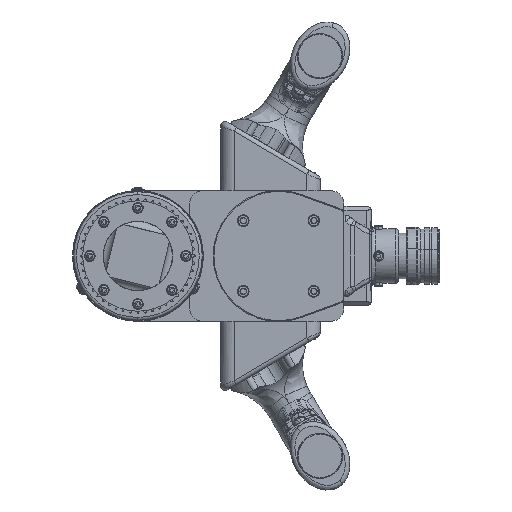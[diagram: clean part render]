
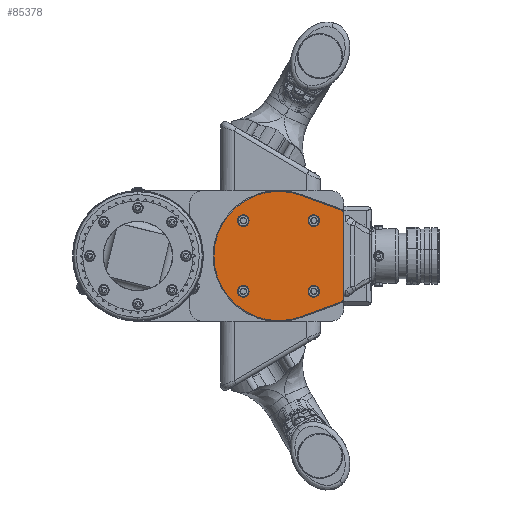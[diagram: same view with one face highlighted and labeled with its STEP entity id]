
A CAD part, front view. The second image highlights one B-rep face of the part: STEP entity #85378.
In plain terms, the highlighted planar face has unit normal (0, -1, 0).
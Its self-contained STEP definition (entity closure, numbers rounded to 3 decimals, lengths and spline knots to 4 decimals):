
#465 = ORIENTED_EDGE ( 'NONE', *, *, #73095, .T. ) ;
#941 = EDGE_CURVE ( 'NONE', #96859, #95898, #65588, .T. ) ;
#1487 = DIRECTION ( 'NONE',  ( 0., 0., 1. ) ) ;
#1942 = ORIENTED_EDGE ( 'NONE', *, *, #77179, .T. ) ;
#3313 = CARTESIAN_POINT ( 'NONE',  ( 4.4838, 0.32, 1.6727 ) ) ;
#3421 = DIRECTION ( 'NONE',  ( 0., -1., 0. ) ) ;
#3703 = ORIENTED_EDGE ( 'NONE', *, *, #67911, .T. ) ;
#4791 = DIRECTION ( 'NONE',  ( 0., -1., 0. ) ) ;
#5688 = VECTOR ( 'NONE', #86405, 39.3701 ) ;
#6107 = EDGE_CURVE ( 'NONE', #42794, #75531, #26218, .T. ) ;
#6503 = DIRECTION ( 'NONE',  ( 0., 0., 1. ) ) ;
#7250 = PLANE ( 'NONE',  #80715 ) ;
#8354 = ORIENTED_EDGE ( 'NONE', *, *, #32573, .F. ) ;
#8690 = VERTEX_POINT ( 'NONE', #66780 ) ;
#9087 = VERTEX_POINT ( 'NONE', #3313 ) ;
#9728 = EDGE_LOOP ( 'NONE', ( #27475, #51547 ) ) ;
#10162 = FACE_OUTER_BOUND ( 'NONE', #69694, .T. ) ;
#11164 = DIRECTION ( 'NONE',  ( 0., 0., 1. ) ) ;
#11709 = DIRECTION ( 'NONE',  ( 0., 0., 1. ) ) ;
#12831 = VECTOR ( 'NONE', #57535, 39.3701 ) ;
#13855 = LINE ( 'NONE', #46300, #5688 ) ;
#15519 = EDGE_CURVE ( 'NONE', #40586, #72166, #49752, .T. ) ;
#15557 = CIRCLE ( 'NONE', #51755, 0.16 ) ;
#15794 = DIRECTION ( 'NONE',  ( 0., 0., 1. ) ) ;
#16340 = EDGE_CURVE ( 'NONE', #72771, #99751, #81130, .T. ) ;
#16848 = FACE_BOUND ( 'NONE', #48659, .T. ) ;
#18336 = CARTESIAN_POINT ( 'NONE',  ( 4.847, 0.32, 0.972 ) ) ;
#18461 = CARTESIAN_POINT ( 'NONE',  ( 2.903, 0.32, -1.132 ) ) ;
#21329 = EDGE_LOOP ( 'NONE', ( #85918, #8354 ) ) ;
#22783 = CARTESIAN_POINT ( 'NONE',  ( 4.4838, 0.32, -1.6727 ) ) ;
#24377 = AXIS2_PLACEMENT_3D ( 'NONE', #64700, #65209, #88382 ) ;
#24559 = DIRECTION ( 'NONE',  ( 0., -1., 0. ) ) ;
#26187 = DIRECTION ( 'NONE',  ( 1., 0., 0. ) ) ;
#26218 = CIRCLE ( 'NONE', #85508, 0.16 ) ;
#26650 = DIRECTION ( 'NONE',  ( 0., -1., 0. ) ) ;
#27166 = CARTESIAN_POINT ( 'NONE',  ( 4.847, 0.32, -0.972 ) ) ;
#27291 = VECTOR ( 'NONE', #15794, 39.3701 ) ;
#27475 = ORIENTED_EDGE ( 'NONE', *, *, #40688, .F. ) ;
#30941 = ORIENTED_EDGE ( 'NONE', *, *, #15519, .F. ) ;
#31509 = CARTESIAN_POINT ( 'NONE',  ( 5.551, 0.32, 1.1725 ) ) ;
#32573 = EDGE_CURVE ( 'NONE', #75531, #42794, #85817, .T. ) ;
#33315 = CARTESIAN_POINT ( 'NONE',  ( 3.875, 0.32, 0. ) ) ;
#34284 = DIRECTION ( 'NONE',  ( 0., 0., 1. ) ) ;
#35015 = CIRCLE ( 'NONE', #89493, 0.16 ) ;
#35696 = DIRECTION ( 'NONE',  ( 0., -1., 0. ) ) ;
#36666 = EDGE_CURVE ( 'NONE', #72166, #40586, #41314, .T. ) ;
#37097 = CARTESIAN_POINT ( 'NONE',  ( 4.847, 0.32, 1.132 ) ) ;
#38882 = DIRECTION ( 'NONE',  ( 0., 0., 1. ) ) ;
#40586 = VERTEX_POINT ( 'NONE', #81810 ) ;
#40601 = EDGE_CURVE ( 'NONE', #8690, #45435, #92718, .T. ) ;
#40688 = EDGE_CURVE ( 'NONE', #99751, #72771, #35015, .T. ) ;
#41314 = CIRCLE ( 'NONE', #90699, 0.16 ) ;
#41589 = CARTESIAN_POINT ( 'NONE',  ( 5.5869, 0.32, -1.2711 ) ) ;
#42794 = VERTEX_POINT ( 'NONE', #82698 ) ;
#44654 = CARTESIAN_POINT ( 'NONE',  ( 4.847, 0.32, -0.972 ) ) ;
#45435 = VERTEX_POINT ( 'NONE', #80186 ) ;
#46300 = CARTESIAN_POINT ( 'NONE',  ( 4.4838, 0.32, 1.6727 ) ) ;
#47511 = AXIS2_PLACEMENT_3D ( 'NONE', #31509, #64855, #26187 ) ;
#47965 = EDGE_CURVE ( 'NONE', #74657, #96859, #49319, .T. ) ;
#48315 = FACE_BOUND ( 'NONE', #21329, .T. ) ;
#48351 = AXIS2_PLACEMENT_3D ( 'NONE', #27166, #26650, #58627 ) ;
#48659 = EDGE_LOOP ( 'NONE', ( #56460, #56552 ) ) ;
#49319 = LINE ( 'NONE', #41589, #12831 ) ;
#49752 = CIRCLE ( 'NONE', #53037, 0.16 ) ;
#49801 = DIRECTION ( 'NONE',  ( 0., -1., 0. ) ) ;
#51547 = ORIENTED_EDGE ( 'NONE', *, *, #16340, .F. ) ;
#51755 = AXIS2_PLACEMENT_3D ( 'NONE', #44654, #77036, #6503 ) ;
#53037 = AXIS2_PLACEMENT_3D ( 'NONE', #55328, #92438, #38882 ) ;
#54703 = CARTESIAN_POINT ( 'NONE',  ( 5.656, 0.32, 1.1725 ) ) ;
#55050 = CARTESIAN_POINT ( 'NONE',  ( 4.847, 0.32, 0.812 ) ) ;
#55328 = CARTESIAN_POINT ( 'NONE',  ( 2.903, 0.32, 0.972 ) ) ;
#56460 = ORIENTED_EDGE ( 'NONE', *, *, #40601, .F. ) ;
#56552 = ORIENTED_EDGE ( 'NONE', *, *, #92420, .F. ) ;
#56776 = ORIENTED_EDGE ( 'NONE', *, *, #76407, .T. ) ;
#57535 = DIRECTION ( 'NONE',  ( 0.94, 0., 0.342 ) ) ;
#58376 = DIRECTION ( 'NONE',  ( 1., 0., 0. ) ) ;
#58627 = DIRECTION ( 'NONE',  ( 0., 0., 1. ) ) ;
#58848 = CARTESIAN_POINT ( 'NONE',  ( 5.5869, 0.32, 1.2711 ) ) ;
#59194 = EDGE_LOOP ( 'NONE', ( #64009, #30941 ) ) ;
#59440 = CARTESIAN_POINT ( 'NONE',  ( 5.656, 0.32, -1.1725 ) ) ;
#60009 = AXIS2_PLACEMENT_3D ( 'NONE', #89784, #35696, #58376 ) ;
#62162 = LINE ( 'NONE', #93562, #27291 ) ;
#64009 = ORIENTED_EDGE ( 'NONE', *, *, #36666, .F. ) ;
#64237 = FACE_BOUND ( 'NONE', #59194, .T. ) ;
#64700 = CARTESIAN_POINT ( 'NONE',  ( 5.551, 0.32, -1.1725 ) ) ;
#64787 = DIRECTION ( 'NONE',  ( 0., -1., 0. ) ) ;
#64855 = DIRECTION ( 'NONE',  ( 0., -1., 0. ) ) ;
#65209 = DIRECTION ( 'NONE',  ( 0., -1., 0. ) ) ;
#65588 = CIRCLE ( 'NONE', #24377, 0.105 ) ;
#66780 = CARTESIAN_POINT ( 'NONE',  ( 4.847, 0.32, -0.812 ) ) ;
#67387 = DIRECTION ( 'NONE',  ( 0., -1., 0. ) ) ;
#67911 = EDGE_CURVE ( 'NONE', #94684, #9087, #13855, .T. ) ;
#69652 = AXIS2_PLACEMENT_3D ( 'NONE', #18336, #49801, #11164 ) ;
#69694 = EDGE_LOOP ( 'NONE', ( #1942, #72068, #72135, #465, #56776, #3703 ) ) ;
#72068 = ORIENTED_EDGE ( 'NONE', *, *, #47965, .T. ) ;
#72135 = ORIENTED_EDGE ( 'NONE', *, *, #941, .T. ) ;
#72166 = VERTEX_POINT ( 'NONE', #80506 ) ;
#72771 = VERTEX_POINT ( 'NONE', #55050 ) ;
#73095 = EDGE_CURVE ( 'NONE', #95898, #78273, #62162, .T. ) ;
#73448 = CARTESIAN_POINT ( 'NONE',  ( 2.903, 0.32, 0.972 ) ) ;
#74657 = VERTEX_POINT ( 'NONE', #22783 ) ;
#75303 = CARTESIAN_POINT ( 'NONE',  ( 2.903, 0.32, -0.972 ) ) ;
#75531 = VERTEX_POINT ( 'NONE', #18461 ) ;
#75983 = AXIS2_PLACEMENT_3D ( 'NONE', #75303, #4791, #11709 ) ;
#76407 = EDGE_CURVE ( 'NONE', #78273, #94684, #96819, .T. ) ;
#77036 = DIRECTION ( 'NONE',  ( 0., -1., 0. ) ) ;
#77179 = EDGE_CURVE ( 'NONE', #9087, #74657, #84628, .T. ) ;
#78273 = VERTEX_POINT ( 'NONE', #54703 ) ;
#79723 = CARTESIAN_POINT ( 'NONE',  ( 2.903, 0.32, -0.972 ) ) ;
#80186 = CARTESIAN_POINT ( 'NONE',  ( 4.847, 0.32, -1.132 ) ) ;
#80506 = CARTESIAN_POINT ( 'NONE',  ( 2.903, 0.32, 1.132 ) ) ;
#80704 = FACE_BOUND ( 'NONE', #9728, .T. ) ;
#80715 = AXIS2_PLACEMENT_3D ( 'NONE', #33315, #24559, #95148 ) ;
#81130 = CIRCLE ( 'NONE', #69652, 0.16 ) ;
#81810 = CARTESIAN_POINT ( 'NONE',  ( 2.903, 0.32, 0.812 ) ) ;
#82698 = CARTESIAN_POINT ( 'NONE',  ( 2.903, 0.32, -0.812 ) ) ;
#82764 = CARTESIAN_POINT ( 'NONE',  ( 5.5869, 0.32, -1.2711 ) ) ;
#84628 = CIRCLE ( 'NONE', #60009, 1.78 ) ;
#85378 = ADVANCED_FACE ( 'NONE', ( #10162, #16848, #80704, #48315, #64237 ), #7250, .T. ) ;
#85508 = AXIS2_PLACEMENT_3D ( 'NONE', #79723, #64787, #1487 ) ;
#85817 = CIRCLE ( 'NONE', #75983, 0.16 ) ;
#85918 = ORIENTED_EDGE ( 'NONE', *, *, #6107, .F. ) ;
#86405 = DIRECTION ( 'NONE',  ( -0.94, 0., 0.342 ) ) ;
#88382 = DIRECTION ( 'NONE',  ( 1., 0., 0. ) ) ;
#89009 = CARTESIAN_POINT ( 'NONE',  ( 4.847, 0.32, 0.972 ) ) ;
#89493 = AXIS2_PLACEMENT_3D ( 'NONE', #89009, #67387, #98771 ) ;
#89784 = CARTESIAN_POINT ( 'NONE',  ( 3.875, 0.32, 0. ) ) ;
#90699 = AXIS2_PLACEMENT_3D ( 'NONE', #73448, #3421, #34284 ) ;
#92420 = EDGE_CURVE ( 'NONE', #45435, #8690, #15557, .T. ) ;
#92438 = DIRECTION ( 'NONE',  ( 0., -1., 0. ) ) ;
#92718 = CIRCLE ( 'NONE', #48351, 0.16 ) ;
#93562 = CARTESIAN_POINT ( 'NONE',  ( 5.656, 0.32, 1.1725 ) ) ;
#94684 = VERTEX_POINT ( 'NONE', #58848 ) ;
#95148 = DIRECTION ( 'NONE',  ( 1., 0., 0. ) ) ;
#95898 = VERTEX_POINT ( 'NONE', #59440 ) ;
#96819 = CIRCLE ( 'NONE', #47511, 0.105 ) ;
#96859 = VERTEX_POINT ( 'NONE', #82764 ) ;
#98771 = DIRECTION ( 'NONE',  ( 0., 0., 1. ) ) ;
#99751 = VERTEX_POINT ( 'NONE', #37097 ) ;
